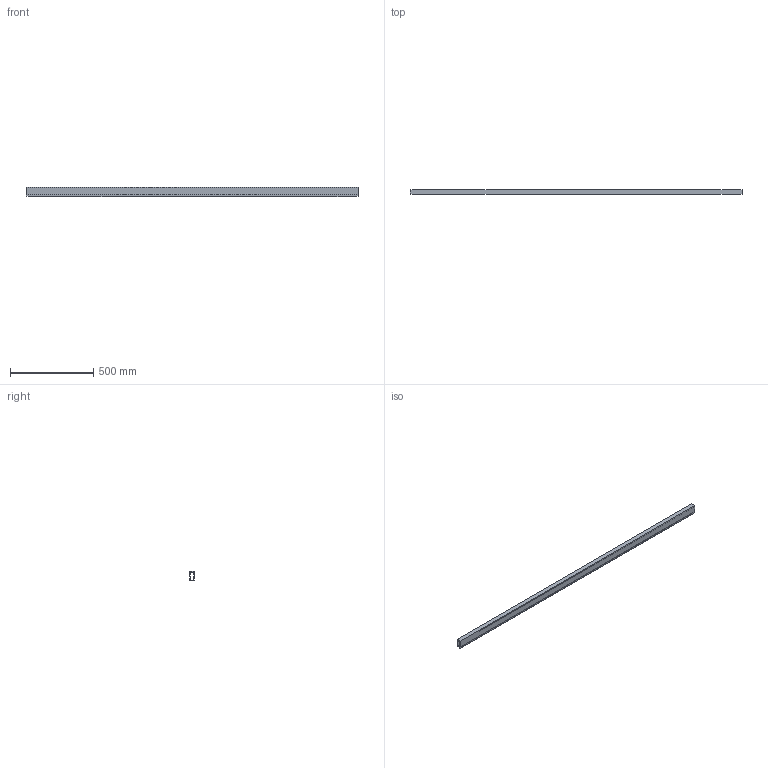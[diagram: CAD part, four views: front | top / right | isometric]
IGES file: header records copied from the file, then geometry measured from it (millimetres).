
Start section: SolidWorks IGES file using analytic representation for surfaces
Global section: file name: X:\PRODUKT\Modele 3D_WWW\_KOLEKCJE WWW\_LVM\LVM-RECESSED-TRACK-2M-10157\LVM-RECESSED-TRACK-2M-10157.IGS; native system: SolidWorks 2021; preprocessor: SolidWorks 2021; author: gabriela.tworek; date: 220510.081459; units: millimetre
Bounding box: 2000 x 27.51 x 54.76 mm (x, y, z)
Surface area: 656495.8 mm2 (no closed solid volume)
Topology: 0 solids, 0 shells, 43 faces, 222 edges, 222 vertices
Faces by surface type: bspline 43
